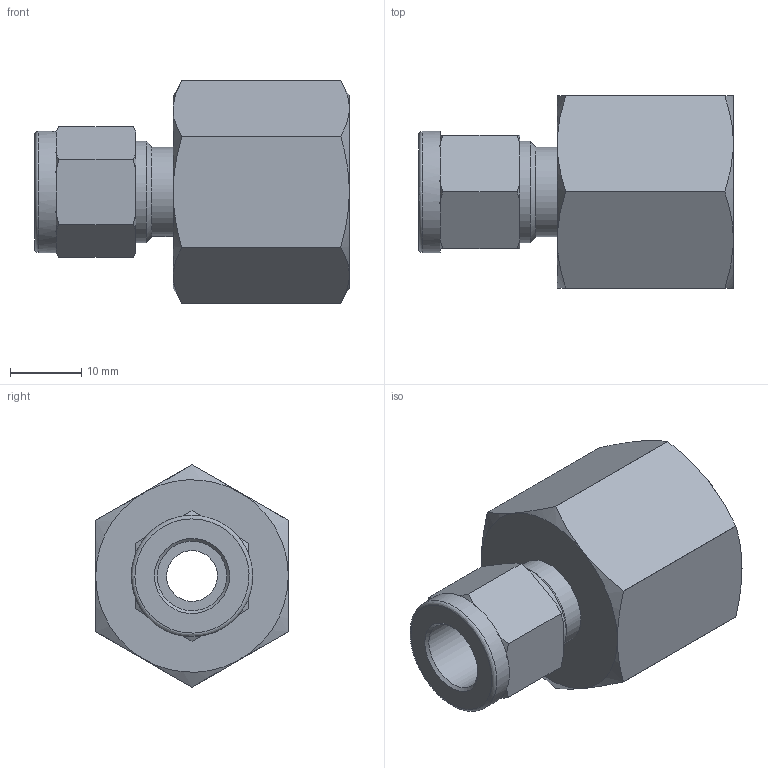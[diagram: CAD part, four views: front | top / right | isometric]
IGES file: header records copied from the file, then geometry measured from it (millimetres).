
Global section: file name: SFC-6-8N; native system: Autodesk Inventor 2016; preprocessor: unknown; author: 배성훈,,11,0; organization: 20151010.053412; date: 20151019.102538; units: millimetre
Bounding box: 44.11 x 27 x 31.16 mm (x, y, z)
Volume: 12320.7 mm3; surface area: 6311 mm2
Topology: 1 solids, 1 shells, 55 faces, 147 edges, 98 vertices
Faces by surface type: bspline 55
